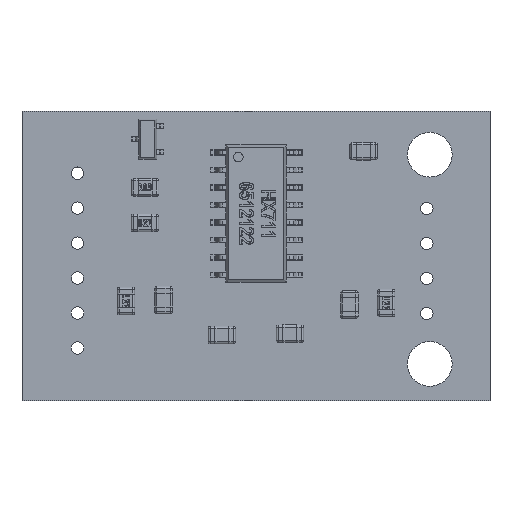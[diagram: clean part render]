
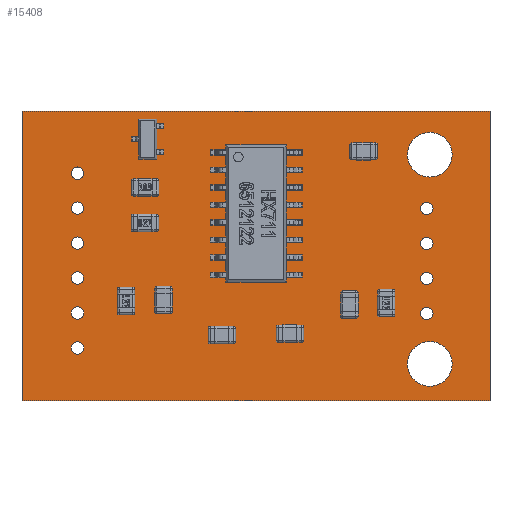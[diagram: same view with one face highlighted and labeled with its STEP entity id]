
A CAD part, top view. The second image highlights one B-rep face of the part: STEP entity #15408.
In plain terms, the highlighted planar face has unit normal (0, 0, 1).
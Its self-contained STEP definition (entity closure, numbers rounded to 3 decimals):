
#1339=FACE_BOUND('',#2711,.T.);
#1340=FACE_BOUND('',#2712,.T.);
#1341=FACE_BOUND('',#2713,.T.);
#1342=FACE_BOUND('',#2714,.T.);
#1343=FACE_BOUND('',#2715,.T.);
#1344=FACE_BOUND('',#2716,.T.);
#1345=FACE_BOUND('',#2717,.T.);
#1346=FACE_BOUND('',#2718,.T.);
#1347=FACE_BOUND('',#2719,.T.);
#1348=FACE_BOUND('',#2720,.T.);
#1349=FACE_BOUND('',#2721,.T.);
#1350=FACE_BOUND('',#2722,.T.);
#1411=PLANE('',#16463);
#1778=FACE_OUTER_BOUND('',#2710,.T.);
#2710=EDGE_LOOP('',(#10576,#10577,#10578,#10579));
#2711=EDGE_LOOP('',(#10580));
#2712=EDGE_LOOP('',(#10581));
#2713=EDGE_LOOP('',(#10582));
#2714=EDGE_LOOP('',(#10583));
#2715=EDGE_LOOP('',(#10584));
#2716=EDGE_LOOP('',(#10585));
#2717=EDGE_LOOP('',(#10586));
#2718=EDGE_LOOP('',(#10587));
#2719=EDGE_LOOP('',(#10588));
#2720=EDGE_LOOP('',(#10589));
#2721=EDGE_LOOP('',(#10590));
#2722=EDGE_LOOP('',(#10591));
#3692=LINE('',#21737,#5029);
#3696=LINE('',#21745,#5033);
#3699=LINE('',#21751,#5036);
#3702=LINE('',#21756,#5039);
#5029=VECTOR('',#17811,1000.);
#5033=VECTOR('',#17817,1000.);
#5036=VECTOR('',#17822,1000.);
#5039=VECTOR('',#17827,1000.);
#6355=CIRCLE('',#16424,1.625);
#6357=CIRCLE('',#16427,1.625);
#6359=CIRCLE('',#16430,0.45);
#6361=CIRCLE('',#16433,0.45);
#6363=CIRCLE('',#16436,0.45);
#6365=CIRCLE('',#16439,0.45);
#6367=CIRCLE('',#16442,0.45);
#6369=CIRCLE('',#16445,0.45);
#6371=CIRCLE('',#16448,0.45);
#6373=CIRCLE('',#16451,0.45);
#6375=CIRCLE('',#16454,0.45);
#6377=CIRCLE('',#16457,0.45);
#6756=VERTEX_POINT('',#21665);
#6758=VERTEX_POINT('',#21671);
#6760=VERTEX_POINT('',#21677);
#6762=VERTEX_POINT('',#21683);
#6764=VERTEX_POINT('',#21689);
#6766=VERTEX_POINT('',#21695);
#6768=VERTEX_POINT('',#21701);
#6770=VERTEX_POINT('',#21707);
#6772=VERTEX_POINT('',#21713);
#6774=VERTEX_POINT('',#21719);
#6776=VERTEX_POINT('',#21725);
#6778=VERTEX_POINT('',#21731);
#6779=VERTEX_POINT('',#21735);
#6780=VERTEX_POINT('',#21736);
#6783=VERTEX_POINT('',#21744);
#6785=VERTEX_POINT('',#21750);
#8196=EDGE_CURVE('',#6756,#6756,#6355,.T.);
#8199=EDGE_CURVE('',#6758,#6758,#6357,.T.);
#8202=EDGE_CURVE('',#6760,#6760,#6359,.T.);
#8205=EDGE_CURVE('',#6762,#6762,#6361,.T.);
#8208=EDGE_CURVE('',#6764,#6764,#6363,.T.);
#8211=EDGE_CURVE('',#6766,#6766,#6365,.T.);
#8214=EDGE_CURVE('',#6768,#6768,#6367,.T.);
#8217=EDGE_CURVE('',#6770,#6770,#6369,.T.);
#8220=EDGE_CURVE('',#6772,#6772,#6371,.T.);
#8223=EDGE_CURVE('',#6774,#6774,#6373,.T.);
#8226=EDGE_CURVE('',#6776,#6776,#6375,.T.);
#8229=EDGE_CURVE('',#6778,#6778,#6377,.T.);
#8230=EDGE_CURVE('',#6779,#6780,#3692,.T.);
#8234=EDGE_CURVE('',#6783,#6779,#3696,.T.);
#8237=EDGE_CURVE('',#6785,#6783,#3699,.T.);
#8240=EDGE_CURVE('',#6780,#6785,#3702,.T.);
#10576=ORIENTED_EDGE('',*,*,#8230,.T.);
#10577=ORIENTED_EDGE('',*,*,#8240,.T.);
#10578=ORIENTED_EDGE('',*,*,#8237,.T.);
#10579=ORIENTED_EDGE('',*,*,#8234,.T.);
#10580=ORIENTED_EDGE('',*,*,#8196,.F.);
#10581=ORIENTED_EDGE('',*,*,#8199,.F.);
#10582=ORIENTED_EDGE('',*,*,#8202,.F.);
#10583=ORIENTED_EDGE('',*,*,#8205,.F.);
#10584=ORIENTED_EDGE('',*,*,#8208,.F.);
#10585=ORIENTED_EDGE('',*,*,#8211,.F.);
#10586=ORIENTED_EDGE('',*,*,#8214,.F.);
#10587=ORIENTED_EDGE('',*,*,#8217,.F.);
#10588=ORIENTED_EDGE('',*,*,#8220,.F.);
#10589=ORIENTED_EDGE('',*,*,#8223,.F.);
#10590=ORIENTED_EDGE('',*,*,#8226,.F.);
#10591=ORIENTED_EDGE('',*,*,#8229,.F.);
#15408=ADVANCED_FACE('',(#1778,#1339,#1340,#1341,#1342,#1343,#1344,#1345,
#1346,#1347,#1348,#1349,#1350),#1411,.T.);
#16424=AXIS2_PLACEMENT_3D('',#21667,#17730,#17731);
#16427=AXIS2_PLACEMENT_3D('',#21673,#17737,#17738);
#16430=AXIS2_PLACEMENT_3D('',#21679,#17744,#17745);
#16433=AXIS2_PLACEMENT_3D('',#21685,#17751,#17752);
#16436=AXIS2_PLACEMENT_3D('',#21691,#17758,#17759);
#16439=AXIS2_PLACEMENT_3D('',#21697,#17765,#17766);
#16442=AXIS2_PLACEMENT_3D('',#21703,#17772,#17773);
#16445=AXIS2_PLACEMENT_3D('',#21709,#17779,#17780);
#16448=AXIS2_PLACEMENT_3D('',#21715,#17786,#17787);
#16451=AXIS2_PLACEMENT_3D('',#21721,#17793,#17794);
#16454=AXIS2_PLACEMENT_3D('',#21727,#17800,#17801);
#16457=AXIS2_PLACEMENT_3D('',#21733,#17807,#17808);
#16463=AXIS2_PLACEMENT_3D('',#21759,#17831,#17832);
#17730=DIRECTION('center_axis',(0.,0.,1.));
#17731=DIRECTION('ref_axis',(1.,0.,0.));
#17737=DIRECTION('center_axis',(0.,0.,1.));
#17738=DIRECTION('ref_axis',(1.,0.,0.));
#17744=DIRECTION('center_axis',(0.,0.,1.));
#17745=DIRECTION('ref_axis',(-1.,0.,0.));
#17751=DIRECTION('center_axis',(0.,0.,1.));
#17752=DIRECTION('ref_axis',(-1.,0.,0.));
#17758=DIRECTION('center_axis',(0.,0.,1.));
#17759=DIRECTION('ref_axis',(-1.,0.,0.));
#17765=DIRECTION('center_axis',(0.,0.,1.));
#17766=DIRECTION('ref_axis',(-1.,0.,0.));
#17772=DIRECTION('center_axis',(0.,0.,1.));
#17773=DIRECTION('ref_axis',(-1.,0.,0.));
#17779=DIRECTION('center_axis',(0.,0.,1.));
#17780=DIRECTION('ref_axis',(-1.,0.,0.));
#17786=DIRECTION('center_axis',(0.,0.,1.));
#17787=DIRECTION('ref_axis',(-1.,0.,0.));
#17793=DIRECTION('center_axis',(0.,0.,1.));
#17794=DIRECTION('ref_axis',(-1.,0.,0.));
#17800=DIRECTION('center_axis',(0.,0.,1.));
#17801=DIRECTION('ref_axis',(-1.,0.,0.));
#17807=DIRECTION('center_axis',(0.,0.,1.));
#17808=DIRECTION('ref_axis',(-1.,0.,0.));
#17811=DIRECTION('',(0.,-1.,0.));
#17817=DIRECTION('',(-1.,0.,0.));
#17822=DIRECTION('',(0.,1.,0.));
#17827=DIRECTION('',(1.,0.,0.));
#17831=DIRECTION('center_axis',(0.,0.,1.));
#17832=DIRECTION('ref_axis',(1.,0.,0.));
#21665=CARTESIAN_POINT('',(28.,2.658,0.411));
#21667=CARTESIAN_POINT('Origin',(29.625,2.658,0.411));
#21671=CARTESIAN_POINT('',(28.,17.858,0.411));
#21673=CARTESIAN_POINT('Origin',(29.625,17.858,0.411));
#21677=CARTESIAN_POINT('',(3.581,8.895,0.411));
#21679=CARTESIAN_POINT('Origin',(4.031,8.895,0.411));
#21683=CARTESIAN_POINT('',(3.581,6.355,0.411));
#21685=CARTESIAN_POINT('Origin',(4.031,6.355,0.411));
#21689=CARTESIAN_POINT('',(3.581,16.515,0.411));
#21691=CARTESIAN_POINT('Origin',(4.031,16.515,0.411));
#21695=CARTESIAN_POINT('',(3.581,11.435,0.411));
#21697=CARTESIAN_POINT('Origin',(4.031,11.435,0.411));
#21701=CARTESIAN_POINT('',(3.581,13.975,0.411));
#21703=CARTESIAN_POINT('Origin',(4.031,13.975,0.411));
#21707=CARTESIAN_POINT('',(3.581,3.815,0.411));
#21709=CARTESIAN_POINT('Origin',(4.031,3.815,0.411));
#21713=CARTESIAN_POINT('',(28.96,6.332,0.411));
#21715=CARTESIAN_POINT('Origin',(29.41,6.332,0.411));
#21719=CARTESIAN_POINT('',(28.96,13.952,0.411));
#21721=CARTESIAN_POINT('Origin',(29.41,13.952,0.411));
#21725=CARTESIAN_POINT('',(28.96,8.872,0.411));
#21727=CARTESIAN_POINT('Origin',(29.41,8.872,0.411));
#21731=CARTESIAN_POINT('',(28.96,11.412,0.411));
#21733=CARTESIAN_POINT('Origin',(29.41,11.412,0.411));
#21735=CARTESIAN_POINT('',(0.,21.,0.411));
#21736=CARTESIAN_POINT('',(0.,0.,0.411));
#21737=CARTESIAN_POINT('',(0.,21.,0.411));
#21744=CARTESIAN_POINT('',(34.,21.,0.411));
#21745=CARTESIAN_POINT('',(34.,21.,0.411));
#21750=CARTESIAN_POINT('',(34.,0.,0.411));
#21751=CARTESIAN_POINT('',(34.,0.,0.411));
#21756=CARTESIAN_POINT('',(0.,0.,0.411));
#21759=CARTESIAN_POINT('Origin',(0.,0.,0.411));
